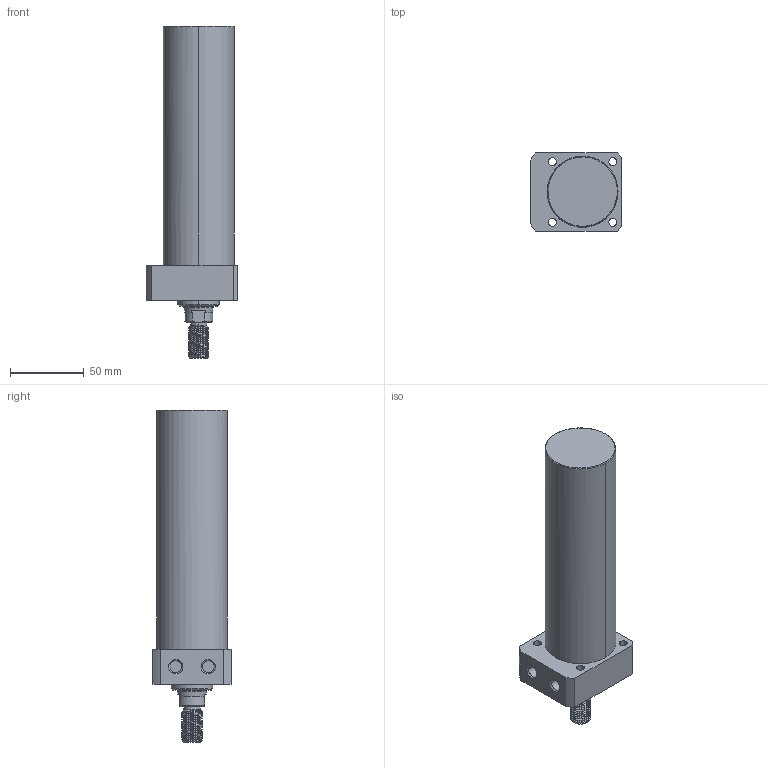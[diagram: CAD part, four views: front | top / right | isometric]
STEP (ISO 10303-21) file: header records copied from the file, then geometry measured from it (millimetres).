
FILE_DESCRIPTION((' '),'2;1');
FILE_NAME( 'TLLR-048CT-135.STEP.stp', '2025-10-24T16:34:38', (' '), ('--- Datakit www.datakit.com---'), ' Datakit CrossCadWare V2024.1 Dec 21 2023', 'Mastercam 2025', ' ');
FILE_SCHEMA(('AUTOMOTIVE_DESIGN { 1 0 10303 214 1 1 1 1 }'));
Length unit declared in the file: millimetre
Products named in the file (1): TLLR-048CT-135
Bounding box: 62 x 53 x 225 mm (x, y, z)
Volume: 376164.7 mm3; surface area: 41032.8 mm2
Topology: 1 solids, 1 shells, 96 faces, 329 edges, 243 vertices
Faces by surface type: cylinder 56, plane 20, cone 16, bspline 2, torus 2
Entity records: 10050 total; most frequent: CARTESIAN_POINT 7154, ORIENTED_EDGE 658, DIRECTION 499, EDGE_CURVE 329, VERTEX_POINT 243, AXIS2_PLACEMENT_3D 204, B_SPLINE_CURVE_WITH_KNOTS 129, EDGE_LOOP 112
